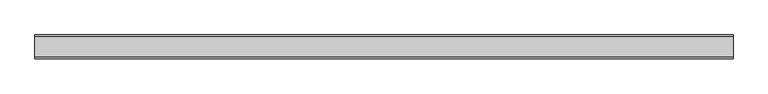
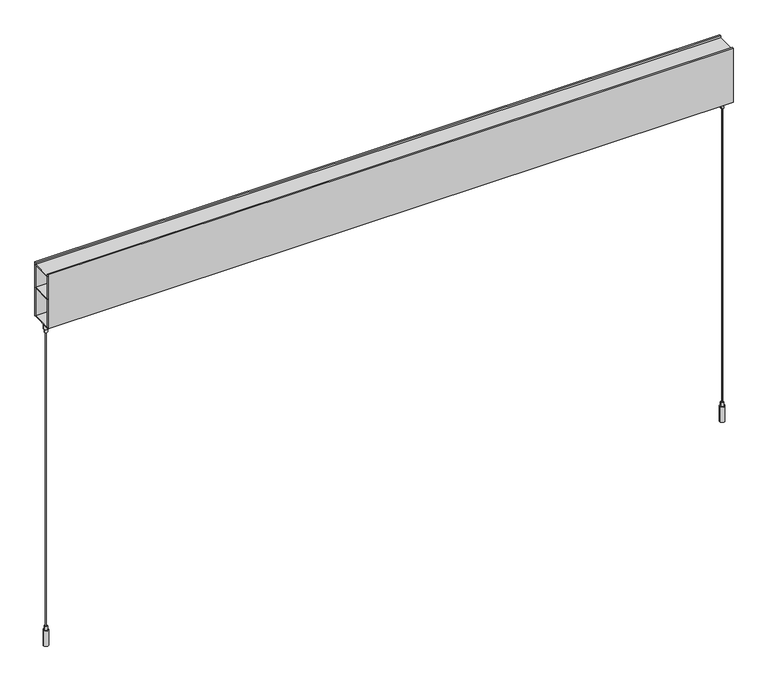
"""IFC4 building model written with IfcOpenShell, lengths in millimetres: light fixture geometry, Lighting-Pendant-Betacalco-Block-Straight : BLKP-DT1-PW01-TR01-SL04-EP01-LP020-CR80-CTA40."""

from ifc_helpers import new_model, si_unit, frame, origin, place, context, project, spatial, polyline, circle_curve, outline, extrude, source, transform, mapped, element, save
from ifc_brep_helpers import plane_surface, cylinder_surface, advanced_brep


def light_fixture_302b4e2d(model_context):
    return source(origin(), model_context, "Body", "SolidModel", [
        advanced_brep(
        [(606.4250015, 0.0, 0.0), (597.5349985, 0.0, 0.0), (597.5349985, 0.0, 28.4480024), (606.4250015, 0.0, 28.4480024), (599.4400002, 0.0, 28.4480024), (604.5199998, 0.0, 28.4480024), (599.4400002, 0.0, 35.4330037), (604.5199998, 0.0, 35.4330037), (601.98, 0.0, 35.4330037), (601.98, 0.0, 0.0)],
        [
            (0, 1, circle_curve(frame((601.98, 0.0, 0.0), z_axis=(0.0, 0.0, 1.0), x_axis=(-1.0, 0.0, 0.0)), 4.4450015)),
            (1, 2),
            (2, 3, circle_curve(frame((601.98, 0.0, 28.4480024), z_axis=(0.0, 0.0, -1.0), x_axis=(-1.0, 0.0, 0.0)), 4.4450015)),
            (3, 0),
            (1, 0, circle_curve(frame((601.98, 0.0, 0.0), z_axis=(0.0, 0.0, 1.0), x_axis=(-1.0, 0.0, 0.0)), 4.4450015)),
            (3, 2, circle_curve(frame((601.98, 0.0, 28.4480024), z_axis=(0.0, 0.0, -1.0), x_axis=(-1.0, 0.0, 0.0)), 4.4450015)),
            (2, 4),
            (4, 5, circle_curve(frame((601.98, 0.0, 28.4480024), z_axis=(0.0, 0.0, -1.0), x_axis=(-1.0, 0.0, 0.0)), 2.5399998)),
            (5, 3),
            (5, 4, circle_curve(frame((601.98, 0.0, 28.4480024), z_axis=(0.0, 0.0, -1.0), x_axis=(-1.0, 0.0, 0.0)), 2.5399998)),
            (4, 6),
            (6, 7, circle_curve(frame((601.98, 0.0, 35.4330037), z_axis=(0.0, 0.0, -1.0), x_axis=(-1.0, 0.0, 0.0)), 2.5399998)),
            (7, 5),
            (7, 6, circle_curve(frame((601.98, 0.0, 35.4330037), z_axis=(0.0, 0.0, -1.0), x_axis=(-1.0, 0.0, 0.0)), 2.5399998)),
            (6, 8),
            (8, 7),
            (9, 1),
            (0, 9),
        ],
        [
            cylinder_surface(frame((601.98, 0.0, 2366.7150031), z_axis=(0.0, 0.0, -1.0), x_axis=(-1.0, 0.0, 0.0)), 4.4450015),
            plane_surface(frame((601.98, 0.0, 28.4480024), z_axis=(0.0, 0.0, 1.0), x_axis=(-1.0, 0.0, 0.0))),
            cylinder_surface(frame((601.98, 0.0, 2366.7150031), z_axis=(0.0, 0.0, -1.0), x_axis=(-1.0, 0.0, 0.0)), 2.5399998),
            plane_surface(frame((601.98, 0.0, 35.4330037), z_axis=(0.0, 0.0, 1.0), x_axis=(-1.0, 0.0, 0.0))),
            plane_surface(frame((601.98, 0.0, 0.0), z_axis=(0.0, 0.0, -1.0), x_axis=(-1.0, 0.0, 0.0))),
        ],
        [
            (0, [[1, 2, 3, 4]]),
            (0, [[5, -4, 6, -2]]),
            (1, [[-3, 7, 8, 9]]),
            (1, [[-6, -9, 10, -7]]),
            (2, [[-8, 11, 12, 13]]),
            (2, [[-10, -13, 14, -11]]),
            (3, [[-12, 15, 16]]),
            (3, [[-14, -16, -15]]),
            (4, [[17, -1, 18]]),
            (4, [[-18, -5, -17]]),
        ],
    ),
        advanced_brep(
        [(602.7737476, 0.0, 35.4330037), (601.1862524, 0.0, 35.4330037), (601.1862524, 0.0, 589.2774601), (602.7737476, 0.0, 589.2774601), (601.98, 0.0, 35.4330037), (601.98, 0.0, 589.2774601)],
        [
            (0, 1, circle_curve(frame((601.98, 0.0, 35.4330037), z_axis=(0.0, 0.0, 1.0), x_axis=(-1.0, 0.0, 0.0)), 0.7937476)),
            (1, 2),
            (2, 3, circle_curve(frame((601.98, 0.0, 589.2774601), z_axis=(0.0, 0.0, -1.0), x_axis=(-1.0, 0.0, 0.0)), 0.7937476)),
            (3, 0),
            (1, 0, circle_curve(frame((601.98, 0.0, 35.4330037), z_axis=(0.0, 0.0, 1.0), x_axis=(-1.0, 0.0, 0.0)), 0.7937476)),
            (3, 2, circle_curve(frame((601.98, 0.0, 589.2774601), z_axis=(0.0, 0.0, -1.0), x_axis=(-1.0, 0.0, 0.0)), 0.7937476)),
            (4, 1),
            (0, 4),
            (2, 5),
            (5, 3),
        ],
        [
            cylinder_surface(frame((601.98, 0.0, 2366.7150031), z_axis=(0.0, 0.0, -1.0), x_axis=(-1.0, 0.0, 0.0)), 0.7937476),
            plane_surface(frame((601.98, 0.0, 35.4330037), z_axis=(0.0, 0.0, -1.0), x_axis=(-1.0, 0.0, 0.0))),
            plane_surface(frame((601.98, 0.0, 589.2774601), z_axis=(0.0, 0.0, 1.0), x_axis=(-1.0, 0.0, 0.0))),
        ],
        [
            (0, [[1, 2, 3, 4]]),
            (0, [[5, -4, 6, -2]]),
            (1, [[7, -1, 8]]),
            (1, [[-8, -5, -7]]),
            (2, [[-3, 9, 10]]),
            (2, [[-6, -10, -9]]),
        ],
    ),
        advanced_brep(
        [(606.4250015, 0.0, 596.2624614), (597.5349985, 0.0, 596.2624614), (597.5349985, 0.0, 609.6), (606.4250015, 0.0, 609.6), (604.5199998, 0.0, 596.2624614), (599.4400002, 0.0, 596.2624614), (604.5199998, 0.0, 589.2774601), (599.4400002, 0.0, 589.2774601), (601.98, 0.0, 589.2774601), (601.98, 0.0, 609.6)],
        [
            (0, 1, circle_curve(frame((601.98, 0.0, 596.2624614), z_axis=(0.0, 0.0, 1.0), x_axis=(-1.0, 0.0, 0.0)), 4.4450015)),
            (1, 2),
            (2, 3, circle_curve(frame((601.98, 0.0, 609.6), z_axis=(0.0, 0.0, -1.0), x_axis=(-1.0, 0.0, 0.0)), 4.4450015)),
            (3, 0),
            (1, 0, circle_curve(frame((601.98, 0.0, 596.2624614), z_axis=(0.0, 0.0, 1.0), x_axis=(-1.0, 0.0, 0.0)), 4.4450015)),
            (3, 2, circle_curve(frame((601.98, 0.0, 609.6), z_axis=(0.0, 0.0, -1.0), x_axis=(-1.0, 0.0, 0.0)), 4.4450015)),
            (4, 5, circle_curve(frame((601.98, 0.0, 596.2624614), z_axis=(0.0, 0.0, 1.0), x_axis=(-1.0, 0.0, 0.0)), 2.5399998)),
            (5, 1),
            (0, 4),
            (5, 4, circle_curve(frame((601.98, 0.0, 596.2624614), z_axis=(0.0, 0.0, 1.0), x_axis=(-1.0, 0.0, 0.0)), 2.5399998)),
            (6, 7, circle_curve(frame((601.98, 0.0, 589.2774601), z_axis=(0.0, 0.0, 1.0), x_axis=(-1.0, 0.0, 0.0)), 2.5399998)),
            (7, 5),
            (4, 6),
            (7, 6, circle_curve(frame((601.98, 0.0, 589.2774601), z_axis=(0.0, 0.0, 1.0), x_axis=(-1.0, 0.0, 0.0)), 2.5399998)),
            (8, 7),
            (6, 8),
            (2, 9),
            (9, 3),
        ],
        [
            cylinder_surface(frame((601.98, 0.0, 2366.7150031), z_axis=(0.0, 0.0, -1.0), x_axis=(-1.0, 0.0, 0.0)), 4.4450015),
            plane_surface(frame((601.98, 0.0, 596.2624614), z_axis=(0.0, 0.0, -1.0), x_axis=(-1.0, 0.0, 0.0))),
            cylinder_surface(frame((601.98, 0.0, 2366.7150031), z_axis=(0.0, 0.0, -1.0), x_axis=(-1.0, 0.0, 0.0)), 2.5399998),
            plane_surface(frame((601.98, 0.0, 589.2774601), z_axis=(0.0, 0.0, -1.0), x_axis=(-1.0, 0.0, 0.0))),
            plane_surface(frame((601.98, 0.0, 609.6), z_axis=(0.0, 0.0, 1.0), x_axis=(-1.0, 0.0, 0.0))),
        ],
        [
            (0, [[1, 2, 3, 4]]),
            (0, [[5, -4, 6, -2]]),
            (1, [[7, 8, -1, 9]]),
            (1, [[10, -9, -5, -8]]),
            (2, [[11, 12, -7, 13]]),
            (2, [[14, -13, -10, -12]]),
            (3, [[15, -11, 16]]),
            (3, [[-16, -14, -15]]),
            (4, [[-3, 17, 18]]),
            (4, [[-6, -18, -17]]),
        ],
    ),
        advanced_brep(
        [(-597.5349985, 0.0, 0.0), (-606.4250015, 0.0, 0.0), (-606.4250015, 0.0, 28.4480024), (-597.5349985, 0.0, 28.4480024), (-604.5199998, 0.0, 28.4480024), (-599.4400002, 0.0, 28.4480024), (-604.5199998, 0.0, 35.4330037), (-599.4400002, 0.0, 35.4330037), (-601.98, 0.0, 35.4330037), (-601.98, 0.0, 0.0)],
        [
            (0, 1, circle_curve(frame((-601.98, 0.0, 0.0), z_axis=(0.0, 0.0, 1.0), x_axis=(-1.0, 0.0, 0.0)), 4.4450015)),
            (1, 2),
            (2, 3, circle_curve(frame((-601.98, 0.0, 28.4480024), z_axis=(0.0, 0.0, -1.0), x_axis=(-1.0, 0.0, 0.0)), 4.4450015)),
            (3, 0),
            (1, 0, circle_curve(frame((-601.98, 0.0, 0.0), z_axis=(0.0, 0.0, 1.0), x_axis=(-1.0, 0.0, 0.0)), 4.4450015)),
            (3, 2, circle_curve(frame((-601.98, 0.0, 28.4480024), z_axis=(0.0, 0.0, -1.0), x_axis=(-1.0, 0.0, 0.0)), 4.4450015)),
            (2, 4),
            (4, 5, circle_curve(frame((-601.98, 0.0, 28.4480024), z_axis=(0.0, 0.0, -1.0), x_axis=(-1.0, 0.0, 0.0)), 2.5399998)),
            (5, 3),
            (5, 4, circle_curve(frame((-601.98, 0.0, 28.4480024), z_axis=(0.0, 0.0, -1.0), x_axis=(-1.0, 0.0, 0.0)), 2.5399998)),
            (4, 6),
            (6, 7, circle_curve(frame((-601.98, 0.0, 35.4330037), z_axis=(0.0, 0.0, -1.0), x_axis=(-1.0, 0.0, 0.0)), 2.5399998)),
            (7, 5),
            (7, 6, circle_curve(frame((-601.98, 0.0, 35.4330037), z_axis=(0.0, 0.0, -1.0), x_axis=(-1.0, 0.0, 0.0)), 2.5399998)),
            (6, 8),
            (8, 7),
            (9, 1),
            (0, 9),
        ],
        [
            cylinder_surface(frame((-601.98, 0.0, 2366.7150031), z_axis=(0.0, 0.0, -1.0), x_axis=(-1.0, 0.0, 0.0)), 4.4450015),
            plane_surface(frame((-601.98, 0.0, 28.4480024), z_axis=(0.0, 0.0, 1.0), x_axis=(-1.0, 0.0, 0.0))),
            cylinder_surface(frame((-601.98, 0.0, 2366.7150031), z_axis=(0.0, 0.0, -1.0), x_axis=(-1.0, 0.0, 0.0)), 2.5399998),
            plane_surface(frame((-601.98, 0.0, 35.4330037), z_axis=(0.0, 0.0, 1.0), x_axis=(-1.0, 0.0, 0.0))),
            plane_surface(frame((-601.98, 0.0, 0.0), z_axis=(0.0, 0.0, -1.0), x_axis=(-1.0, 0.0, 0.0))),
        ],
        [
            (0, [[1, 2, 3, 4]]),
            (0, [[5, -4, 6, -2]]),
            (1, [[-3, 7, 8, 9]]),
            (1, [[-6, -9, 10, -7]]),
            (2, [[-8, 11, 12, 13]]),
            (2, [[-10, -13, 14, -11]]),
            (3, [[-12, 15, 16]]),
            (3, [[-14, -16, -15]]),
            (4, [[17, -1, 18]]),
            (4, [[-18, -5, -17]]),
        ],
    ),
        advanced_brep(
        [(-601.1862524, 0.0, 35.4330037), (-602.7737476, 0.0, 35.4330037), (-602.7737476, 0.0, 589.2774601), (-601.1862524, 0.0, 589.2774601), (-601.98, 0.0, 35.4330037), (-601.98, 0.0, 589.2774601)],
        [
            (0, 1, circle_curve(frame((-601.98, 0.0, 35.4330037), z_axis=(0.0, 0.0, 1.0), x_axis=(-1.0, 0.0, 0.0)), 0.7937476)),
            (1, 2),
            (2, 3, circle_curve(frame((-601.98, 0.0, 589.2774601), z_axis=(0.0, 0.0, -1.0), x_axis=(-1.0, 0.0, 0.0)), 0.7937476)),
            (3, 0),
            (1, 0, circle_curve(frame((-601.98, 0.0, 35.4330037), z_axis=(0.0, 0.0, 1.0), x_axis=(-1.0, 0.0, 0.0)), 0.7937476)),
            (3, 2, circle_curve(frame((-601.98, 0.0, 589.2774601), z_axis=(0.0, 0.0, -1.0), x_axis=(-1.0, 0.0, 0.0)), 0.7937476)),
            (4, 1),
            (0, 4),
            (2, 5),
            (5, 3),
        ],
        [
            cylinder_surface(frame((-601.98, 0.0, 2366.7150031), z_axis=(0.0, 0.0, -1.0), x_axis=(-1.0, 0.0, 0.0)), 0.7937476),
            plane_surface(frame((-601.98, 0.0, 35.4330037), z_axis=(0.0, 0.0, -1.0), x_axis=(-1.0, 0.0, 0.0))),
            plane_surface(frame((-601.98, 0.0, 589.2774601), z_axis=(0.0, 0.0, 1.0), x_axis=(-1.0, 0.0, 0.0))),
        ],
        [
            (0, [[1, 2, 3, 4]]),
            (0, [[5, -4, 6, -2]]),
            (1, [[7, -1, 8]]),
            (1, [[-8, -5, -7]]),
            (2, [[-3, 9, 10]]),
            (2, [[-6, -10, -9]]),
        ],
    ),
        advanced_brep(
        [(-597.5349985, 0.0, 596.2624614), (-606.4250015, 0.0, 596.2624614), (-606.4250015, 0.0, 609.6), (-597.5349985, 0.0, 609.6), (-599.4400002, 0.0, 596.2624614), (-604.5199998, 0.0, 596.2624614), (-599.4400002, 0.0, 589.2774601), (-604.5199998, 0.0, 589.2774601), (-601.98, 0.0, 589.2774601), (-601.98, 0.0, 609.6)],
        [
            (0, 1, circle_curve(frame((-601.98, 0.0, 596.2624614), z_axis=(0.0, 0.0, 1.0), x_axis=(-1.0, 0.0, 0.0)), 4.4450015)),
            (1, 2),
            (2, 3, circle_curve(frame((-601.98, 0.0, 609.6), z_axis=(0.0, 0.0, -1.0), x_axis=(-1.0, 0.0, 0.0)), 4.4450015)),
            (3, 0),
            (1, 0, circle_curve(frame((-601.98, 0.0, 596.2624614), z_axis=(0.0, 0.0, 1.0), x_axis=(-1.0, 0.0, 0.0)), 4.4450015)),
            (3, 2, circle_curve(frame((-601.98, 0.0, 609.6), z_axis=(0.0, 0.0, -1.0), x_axis=(-1.0, 0.0, 0.0)), 4.4450015)),
            (4, 5, circle_curve(frame((-601.98, 0.0, 596.2624614), z_axis=(0.0, 0.0, 1.0), x_axis=(-1.0, 0.0, 0.0)), 2.5399998)),
            (5, 1),
            (0, 4),
            (5, 4, circle_curve(frame((-601.98, 0.0, 596.2624614), z_axis=(0.0, 0.0, 1.0), x_axis=(-1.0, 0.0, 0.0)), 2.5399998)),
            (6, 7, circle_curve(frame((-601.98, 0.0, 589.2774601), z_axis=(0.0, 0.0, 1.0), x_axis=(-1.0, 0.0, 0.0)), 2.5399998)),
            (7, 5),
            (4, 6),
            (7, 6, circle_curve(frame((-601.98, 0.0, 589.2774601), z_axis=(0.0, 0.0, 1.0), x_axis=(-1.0, 0.0, 0.0)), 2.5399998)),
            (8, 7),
            (6, 8),
            (2, 9),
            (9, 3),
        ],
        [
            cylinder_surface(frame((-601.98, 0.0, 2366.7150031), z_axis=(0.0, 0.0, -1.0), x_axis=(-1.0, 0.0, 0.0)), 4.4450015),
            plane_surface(frame((-601.98, 0.0, 596.2624614), z_axis=(0.0, 0.0, -1.0), x_axis=(-1.0, 0.0, 0.0))),
            cylinder_surface(frame((-601.98, 0.0, 2366.7150031), z_axis=(0.0, 0.0, -1.0), x_axis=(-1.0, 0.0, 0.0)), 2.5399998),
            plane_surface(frame((-601.98, 0.0, 589.2774601), z_axis=(0.0, 0.0, -1.0), x_axis=(-1.0, 0.0, 0.0))),
            plane_surface(frame((-601.98, 0.0, 609.6), z_axis=(0.0, 0.0, 1.0), x_axis=(-1.0, 0.0, 0.0))),
        ],
        [
            (0, [[1, 2, 3, 4]]),
            (0, [[5, -4, 6, -2]]),
            (1, [[7, 8, -1, 9]]),
            (1, [[10, -9, -5, -8]]),
            (2, [[11, 12, -7, 13]]),
            (2, [[14, -13, -10, -12]]),
            (3, [[15, -11, 16]]),
            (3, [[-16, -14, -15]]),
            (4, [[-3, 17, 18]]),
            (4, [[-6, -18, -17]]),
        ],
    ),
        extrude(outline(polyline([(609.6, 18.0975), (609.6, -18.0975), (-609.6, -18.0975), (-609.6, 18.0975), (609.6, 18.0975)])), frame((0.0, 0.0, 705.9095588), z_axis=(0.0, 0.0, 1.0), x_axis=(1.0, 0.0, 0.0)), (0.0, 0.0, 1.0), 1.5875),
        extrude(outline(polyline([(609.6, 18.0975), (609.6, -18.0975), (-609.6, -18.0975), (-609.6, 18.0975), (609.6, 18.0975)])), frame((0.0, 0.0, 663.287913), z_axis=(0.0, 0.0, 1.0), x_axis=(1.0, 0.0, 0.0)), (0.0, 0.0, 1.0), 1.5875),
        extrude(outline(polyline([(609.6, 18.0975), (609.6, -18.0975), (-609.6, -18.0975), (-609.6, 18.0975), (609.6, 18.0975)])), frame((0.0, 0.0, 609.6), z_axis=(0.0, 0.0, 1.0), x_axis=(1.0, 0.0, 0.0)), (0.0, 0.0, 1.0), 1.5875),
        extrude(outline(polyline([(609.6, 20.6375), (609.6, 18.0975), (-609.6, 18.0975), (-609.6, 20.6375), (609.6, 20.6375)])), frame((0.0, 0.0, 609.6), z_axis=(0.0, 0.0, 1.0), x_axis=(1.0, 0.0, 0.0)), (0.0, 0.0, 1.0), 101.6),
        extrude(outline(polyline([(609.6, -18.0975), (609.6, -20.6375), (-609.6, -20.6375), (-609.6, -18.0975), (609.6, -18.0975)])), frame((0.0, 0.0, 609.6), z_axis=(0.0, 0.0, 1.0), x_axis=(1.0, 0.0, 0.0)), (0.0, 0.0, 1.0), 101.6),
    ])


if __name__ == "__main__":
    model = new_model("IFC4")
    model_context = context("Model", 3, world=origin())
    ifc_project = project(units=[si_unit("LENGTHUNIT", "METRE", prefix="MILLI")], contexts=[model_context])
    site = spatial("IfcSite", under=ifc_project)
    building = spatial("IfcBuilding", under=site)
    placement = place(None, origin())
    light_fixture_shape = light_fixture_302b4e2d(model_context)
    element("IfcLightFixture", 1, ObjectType="Lighting-Pendant-Betacalco-Block-Straight : BLKP-DT1-PW01-TR01-SL04-EP01-LP020-CR80-CTA40", at=placement, inside=building, context=model_context, shape_type="MappedRepresentation", body=[
        mapped(light_fixture_shape, transform((0.0, 0.0, 0.0), x_axis=(1.0, 0.0, 0.0), y_axis=(0.0, 1.0, 0.0), z_axis=(0.0, 0.0, 1.0))),
    ])
    save(model, "model.ifc")
